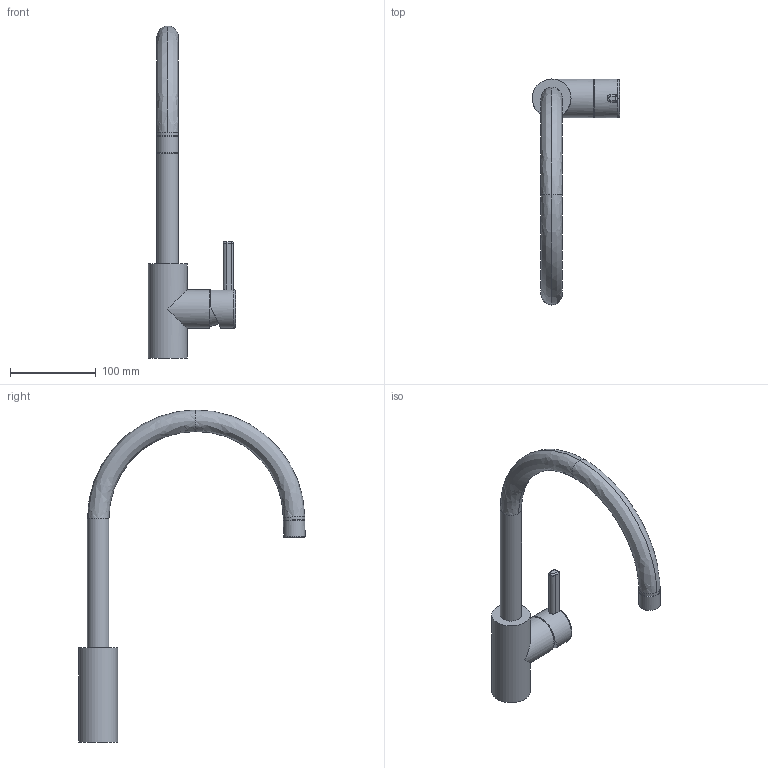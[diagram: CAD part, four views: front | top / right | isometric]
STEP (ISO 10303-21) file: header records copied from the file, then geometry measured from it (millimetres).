
FILE_DESCRIPTION(/* description */ (''),/* implementation_level */ '2;1');
FILE_NAME(/* name */ '3D001_Taps_Eos-Neo_Swivel',/* time_stamp */ '2024-01-30T14:24:32+01:00',/* author */ (''),/* organization */ (''),/* preprocessor_version */ 'ST-DEVELOPER v19.2',/* originating_system */ 'Rhino 8.3',/* authorisation */ '');
FILE_SCHEMA (('CONFIG_CONTROL_DESIGN'));
Length unit declared in the file: millimetre
Products named in the file (2): Document; LOGO_CALDO_FREDDO
Bounding box: 101.62 x 263.39 x 386.5 mm (x, y, z)
Volume: 532742.6 mm3; surface area: 72799.5 mm2
Topology: 9 solids, 9 shells, 198 faces, 528 edges, 349 vertices
Faces by surface type: plane 171, bspline 15, cylinder 12
Full cylindrical faces by diameter (mm): 25 x3, 45 x3
Entity records: 6629 total; most frequent: CARTESIAN_POINT 2611, ORIENTED_EDGE 1052, EDGE_CURVE 526, B_SPLINE_CURVE_WITH_KNOTS 465, VERTEX_POINT 349, DIRECTION 293, AXIS2_PLACEMENT_3D 238, EDGE_LOOP 213
